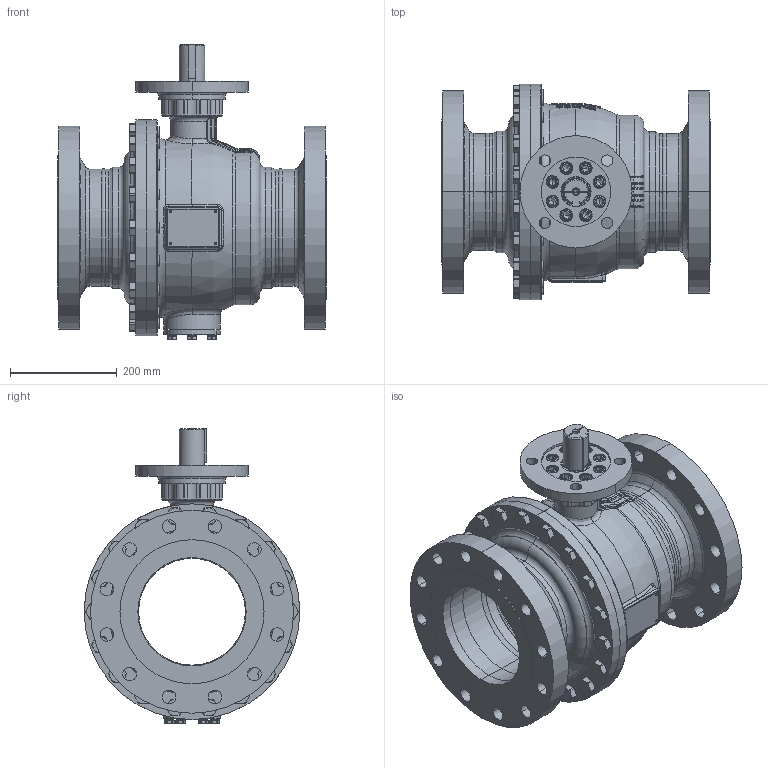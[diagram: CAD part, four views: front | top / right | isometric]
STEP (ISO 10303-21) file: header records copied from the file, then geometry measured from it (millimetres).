
FILE_DESCRIPTION((''),'2;1');
FILE_NAME('KHI-F_200_CL300-F16-P_SW0001','2026-02-05T13:25:40',('fischerkl'),('KLINGER'),'CREO PARAMETRIC BY PTC INC, 2023014','CREO PARAMETRIC BY PTC INC, 2023014','');
FILE_SCHEMA(('CONFIG_CONTROL_DESIGN'));
Products named in the file (1): KHI-F_200_CL300-F16-P_SW0001
Bounding box: 502 x 404 x 552.2 mm (x, y, z)
Volume: 16479615.5 mm3; surface area: 2477573 mm2
Topology: 1 solids, 4 shells, 3373 faces, 8532 edges, 5304 vertices
Faces by surface type: plane 1858, cylinder 720, cone 360, torus 297, bspline 108, sphere 30
Entity records: 134645 total; most frequent: CARTESIAN_POINT 54956, ORIENTED_EDGE 17012, DIRECTION 16130, EDGE_CURVE 8506, AXIS2_PLACEMENT_3D 5945, VERTEX_POINT 5304, VECTOR 4240, LINE 4240
